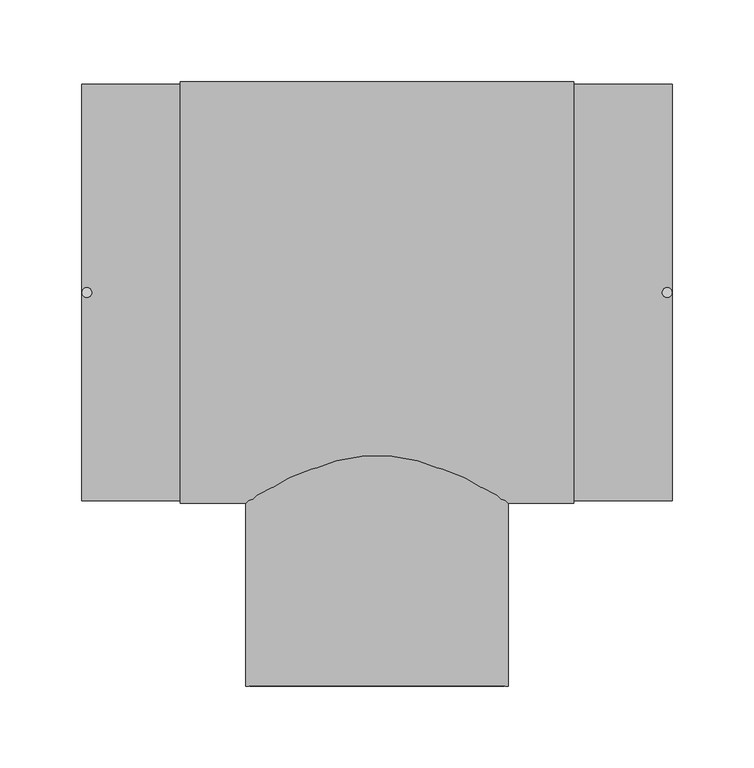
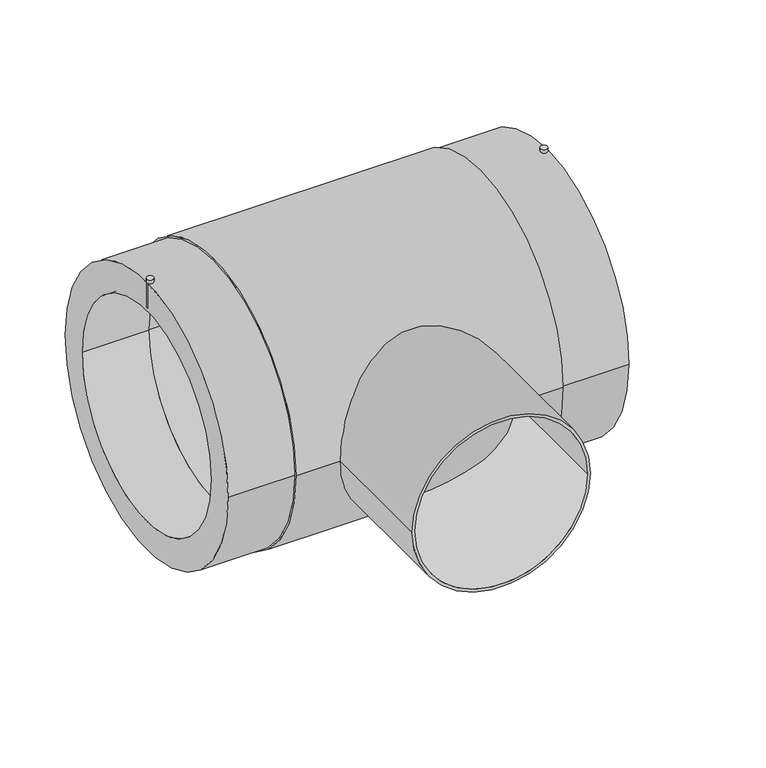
"""IFC4 building model written with IfcOpenShell, lengths in millimetres: pipe fitting geometry, EGB_VASEN_ PPR_Te electrosoldable WXRD300_Te reducida electrosoldable WXRD310 : Te electrosoldable."""

from ifc_helpers import new_model, si_unit, point, frame, frame_2d, origin, origin_2d, place, context, project, spatial, circle_curve, trimmed, segment, composite_curve, outline, extrude, source, transform, mapped, element, save


def pipe_fitting_1328212b(model_context):
    return source(origin(), model_context, "Body", "SweptSolid", [
        extrude(outline(composite_curve([segment(trimmed(circle_curve(frame_2d((-177.0, 0.0)), 3.0), [point((-180.0, 0.0))], [point((-174.0, 0.0))], False, "CARTESIAN"), True, "CONTINUOUS"), segment(trimmed(circle_curve(frame_2d((-177.0, 0.0)), 3.0), [point((-174.0, 0.0))], [point((-180.0, 0.0))], False, "CARTESIAN"), True, "CONTINUOUS")], self_intersect=False)), frame((0.0, 0.0, 103.0), z_axis=(0.0, 0.0, 1.0), x_axis=(1.0, 0.0, 0.0)), (0.0, 0.0, 1.0), 27.0),
        extrude(outline(composite_curve([segment(trimmed(circle_curve(frame_2d((177.0, 0.0)), 3.0), [point((174.0, 0.0))], [point((180.0, 0.0))], False, "CARTESIAN"), True, "CONTINUOUS"), segment(trimmed(circle_curve(frame_2d((177.0, 0.0)), 3.0), [point((180.0, 0.0))], [point((174.0, 0.0))], False, "CARTESIAN"), True, "CONTINUOUS")], self_intersect=False)), frame((0.0, 0.0, 103.0), z_axis=(0.0, 0.0, 1.0), x_axis=(1.0, 0.0, 0.0)), (0.0, 0.0, 1.0), 27.0),
        extrude(outline(composite_curve([segment(trimmed(circle_curve(origin_2d(), 82.5), [point((0.0, 82.5))], [point((0.0, -82.5))], False, "CARTESIAN"), True, "CONTINUOUS"), segment(trimmed(circle_curve(origin_2d(), 82.5), [point((0.0, -82.5))], [point((0.0, 82.5))], False, "CARTESIAN"), True, "CONTINUOUS")], self_intersect=False)), frame((0.0, -96.0, 0.0), z_axis=(0.0, 1.0, 0.0), x_axis=(0.0, 0.0, 1.0)), (0.0, 0.0, 1.0), 96.0),
        extrude(outline(composite_curve([segment(trimmed(circle_curve(origin_2d(), 80.0), [point((0.0, -80.0))], [point((0.0, 80.0))], False, "CARTESIAN"), True, "CONTINUOUS"), segment(trimmed(circle_curve(origin_2d(), 80.0), [point((0.0, 80.0))], [point((0.0, -80.0))], False, "CARTESIAN"), True, "CONTINUOUS")], self_intersect=False), holes=[composite_curve([segment(trimmed(circle_curve(origin_2d(), 77.5), [point((0.0, -77.5))], [point((0.0, 77.5))], True, "CARTESIAN"), True, "CONTINUOUS"), segment(trimmed(circle_curve(origin_2d(), 77.5), [point((0.0, 77.5))], [point((0.0, -77.5))], True, "CARTESIAN"), True, "CONTINUOUS")], self_intersect=False)]), frame((0.0, -240.0, 0.0), z_axis=(0.0, 1.0, 0.0), x_axis=(0.0, 0.0, 1.0)), (0.0, 0.0, 1.0), 144.0),
        extrude(outline(composite_curve([segment(trimmed(circle_curve(origin_2d(), 128.5), [point((-128.5, 0.0))], [point((128.5, 0.0))], False, "CARTESIAN"), True, "CONTINUOUS"), segment(trimmed(circle_curve(origin_2d(), 128.5), [point((128.5, 0.0))], [point((-128.5, 0.0))], False, "CARTESIAN"), True, "CONTINUOUS")], self_intersect=False), holes=[composite_curve([segment(trimmed(circle_curve(origin_2d(), 100.0), [point((-100.0, 0.0))], [point((100.0, 0.0))], True, "CARTESIAN"), True, "CONTINUOUS"), segment(trimmed(circle_curve(origin_2d(), 100.0), [point((100.0, 0.0))], [point((-100.0, 0.0))], True, "CARTESIAN"), True, "CONTINUOUS")], self_intersect=False)]), frame((-120.0, 0.0, 0.0), z_axis=(1.0, 0.0, 0.0), x_axis=(0.0, 1.0, 0.0)), (0.0, 0.0, 1.0), 240.0),
        extrude(outline(composite_curve([segment(trimmed(circle_curve(origin_2d(), 127.0), [point((-127.0, 0.0))], [point((127.0, 0.0))], False, "CARTESIAN"), True, "CONTINUOUS"), segment(trimmed(circle_curve(origin_2d(), 127.0), [point((127.0, 0.0))], [point((-127.0, 0.0))], False, "CARTESIAN"), True, "CONTINUOUS")], self_intersect=False), holes=[composite_curve([segment(trimmed(circle_curve(origin_2d(), 100.0), [point((-100.0, 0.0))], [point((100.0, 0.0))], True, "CARTESIAN"), True, "CONTINUOUS"), segment(trimmed(circle_curve(origin_2d(), 100.0), [point((100.0, 0.0))], [point((-100.0, 0.0))], True, "CARTESIAN"), True, "CONTINUOUS")], self_intersect=False)]), frame((-180.0, 0.0, 0.0), z_axis=(1.0, 0.0, 0.0), x_axis=(0.0, 1.0, 0.0)), (0.0, 0.0, 1.0), 360.0),
    ])


if __name__ == "__main__":
    model = new_model("IFC4")
    model_context = context("Model", 3, world=origin())
    ifc_project = project(units=[si_unit("LENGTHUNIT", "METRE", prefix="MILLI")], contexts=[model_context])
    site = spatial("IfcSite", under=ifc_project)
    building = spatial("IfcBuilding", under=site)
    placement = place(None, origin())
    pipe_fitting_shape = pipe_fitting_1328212b(model_context)
    element("IfcPipeFitting", 1, ObjectType="EGB_VASEN_ PPR_Te electrosoldable WXRD300_Te reducida electrosoldable WXRD310 : Te electrosoldable", at=placement, inside=building, context=model_context, shape_type="MappedRepresentation", body=[
        mapped(pipe_fitting_shape, transform((0.0, 0.0, 0.0), x_axis=(1.0, 0.0, 0.0), y_axis=(0.0, 1.0, 0.0), z_axis=(0.0, 0.0, 1.0))),
    ])
    save(model, "model.ifc")
